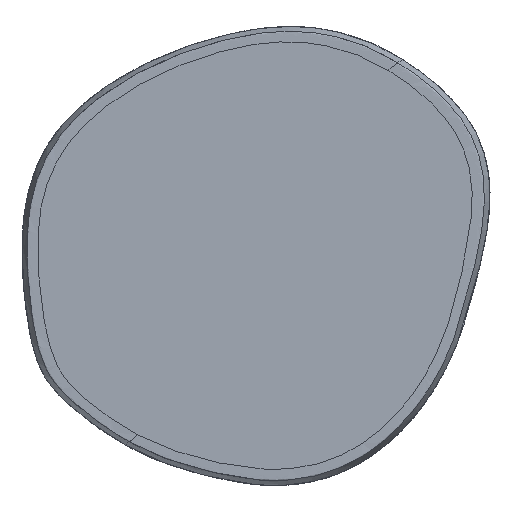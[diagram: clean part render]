
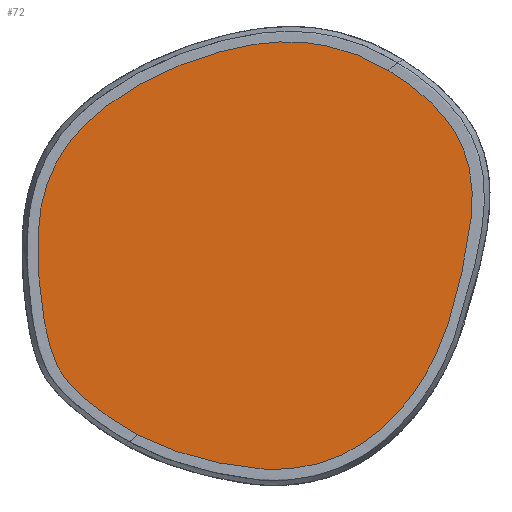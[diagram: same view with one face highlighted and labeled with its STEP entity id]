
A CAD part, top view. The second image highlights one B-rep face of the part: STEP entity #72.
In plain terms, the highlighted planar face has unit normal (0, 0, 1).
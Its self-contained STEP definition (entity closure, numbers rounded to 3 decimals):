
#72=ADVANCED_FACE('',(#120),#709,.T.);
#120=FACE_OUTER_BOUND('',#168,.T.);
#168=EDGE_LOOP('',(#378,#379));
#378=ORIENTED_EDGE('',*,*,#488,.T.);
#379=ORIENTED_EDGE('',*,*,#499,.T.);
#488=EDGE_CURVE('',#676,#682,#598,.T.);
#499=EDGE_CURVE('',#682,#676,#609,.T.);
#598=(
BOUNDED_CURVE()
B_SPLINE_CURVE(3,(#1922,#1923,#1924,#1925,#1926,#1927,#1928,#1929,#1930,
#1931,#1932,#1933),.UNSPECIFIED.,.F.,.F.)
B_SPLINE_CURVE_WITH_KNOTS((4,1,1,1,1,1,1,1,1,4),(0.,99.136,198.272,
297.409,396.545,495.681,594.817,693.953,
793.089,892.226),.UNSPECIFIED.)
CURVE()
GEOMETRIC_REPRESENTATION_ITEM()
RATIONAL_B_SPLINE_CURVE((1.,1.,1.,1.,1.,1.,1.,1.,1.,1.,1.,1.))
REPRESENTATION_ITEM('')
);
#609=(
BOUNDED_CURVE()
B_SPLINE_CURVE(3,(#2044,#2045,#2046,#2047,#2048,#2049,#2050,#2051,#2052,
#2053,#2054,#2055),.UNSPECIFIED.,.F.,.F.)
B_SPLINE_CURVE_WITH_KNOTS((4,1,1,1,1,1,1,1,1,4),(892.226,991.362,
1090.498,1189.634,1288.77,1387.906,1487.043,
1586.179,1685.315,1784.451),.UNSPECIFIED.)
CURVE()
GEOMETRIC_REPRESENTATION_ITEM()
RATIONAL_B_SPLINE_CURVE((1.,1.,1.,1.,1.,1.,1.,1.,1.,1.,1.,1.))
REPRESENTATION_ITEM('')
);
#676=VERTEX_POINT('',#1914);
#682=VERTEX_POINT('',#1920);
#709=PLANE('',#855);
#855=AXIS2_PLACEMENT_3D('',#1613,#900,$);
#900=DIRECTION('',(0.,0.,1.));
#1613=CARTESIAN_POINT('',(222.575,-253.176,450.));
#1914=CARTESIAN_POINT('',(617.193,195.809,450.));
#1920=CARTESIAN_POINT('',(339.087,-209.474,450.));
#1922=CARTESIAN_POINT('',(617.193,195.809,450.));
#1923=CARTESIAN_POINT('',(593.214,210.126,450.));
#1924=CARTESIAN_POINT('',(549.822,226.421,450.));
#1925=CARTESIAN_POINT('',(475.122,230.571,450.));
#1926=CARTESIAN_POINT('',(369.601,199.629,450.));
#1927=CARTESIAN_POINT('',(281.81,144.671,450.));
#1928=CARTESIAN_POINT('',(235.824,80.56,450.));
#1929=CARTESIAN_POINT('',(223.222,-1.495,450.));
#1930=CARTESIAN_POINT('',(238.723,-123.127,450.));
#1931=CARTESIAN_POINT('',(268.262,-162.674,450.));
#1932=CARTESIAN_POINT('',(315.865,-197.054,450.));
#1933=CARTESIAN_POINT('',(339.087,-209.474,450.));
#2044=CARTESIAN_POINT('',(339.087,-209.474,450.));
#2045=CARTESIAN_POINT('',(362.309,-221.893,450.));
#2046=CARTESIAN_POINT('',(407.593,-237.191,450.));
#2047=CARTESIAN_POINT('',(494.041,-254.005,450.));
#2048=CARTESIAN_POINT('',(573.99,-235.086,450.));
#2049=CARTESIAN_POINT('',(635.996,-182.112,450.));
#2050=CARTESIAN_POINT('',(678.991,-112.324,450.));
#2051=CARTESIAN_POINT('',(702.823,-18.552,450.));
#2052=CARTESIAN_POINT('',(716.83,64.967,450.));
#2053=CARTESIAN_POINT('',(693.699,140.522,450.));
#2054=CARTESIAN_POINT('',(641.173,181.493,450.));
#2055=CARTESIAN_POINT('',(617.193,195.809,450.));
